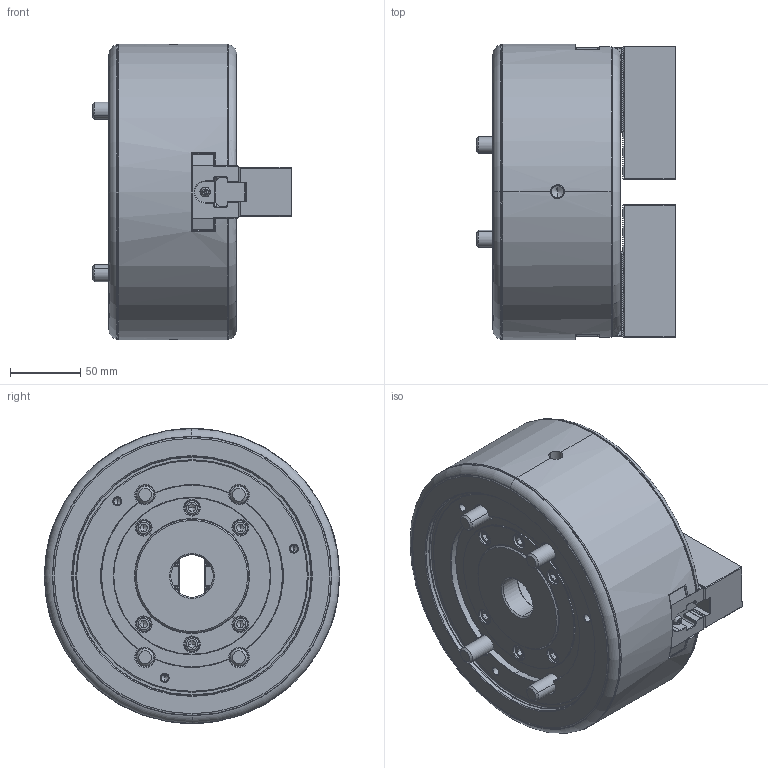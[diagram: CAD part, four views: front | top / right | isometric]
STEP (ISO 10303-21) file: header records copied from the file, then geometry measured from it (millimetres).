
FILE_DESCRIPTION (( 'STEP AP203' ), '1' );
FILE_NAME ('DEV-BRT08-HOC.STEP', '2024-03-07T09:52:45', ( '' ), ( '' ), 'SwSTEP 2.0', 'SolidWorks 2022', '' );
FILE_SCHEMA (( 'CONFIG_CONTROL_DESIGN' ));
Length unit declared in the file: millimetre
Products named in the file (9): BRT08-Nishi20 Tナット-Puls_61P417260-1 B-208 Tﾅｯﾄ-ﾃﾞﾌｫﾙﾄ; BRT08-61P314548-5 ソフトジョー_BBT208-ﾃﾞﾌｫﾙﾄ; DEV-BRT08-HOC; Bアナツキ M12×90; Bアナツキボタン M5×10_デフォルト; Part1^DEV-BRT08-クミタテ(量産)★; BRT08-Nishi20 ドローナット_ﾃﾞﾌｫﾙﾄ-Design; Bアナツキ M12×30; 61P804199-0(BBT208) カバー_BBT208-ﾃﾞﾌｫﾙﾄ
Assembly tree (19 placements, depth 2):
  DEV-BRT08-HOC
    BRT08-Nishi20 ドローナット_ﾃﾞﾌｫﾙﾄ-Design
    BRT08-61P314548-5 ソフトジョー_BBT208-ﾃﾞﾌｫﾙﾄ  x2
    BRT08-Nishi20 Tナット-Puls_61P417260-1 B-208 Tﾅｯﾄ-ﾃﾞﾌｫﾙﾄ  x2
    61P804199-0(BBT208) カバー_BBT208-ﾃﾞﾌｫﾙﾄ
    Bアナツキ M12×30  x4
    Bアナツキボタン M5×10_デフォルト  x4
    Bアナツキ M12×90  x4
    Part1^DEV-BRT08-クミタテ(量産)★
Bounding box: 142.2 x 210 x 210 mm (x, y, z)
Volume: 2920037.3 mm3; surface area: 314060.9 mm2
Topology: 19 solids, 23 shells, 3005 faces, 8220 edges, 5333 vertices
Faces by surface type: plane 2066, cylinder 402, cone 300, bspline 126, torus 103, sphere 8
Entity records: 80017 total; most frequent: CARTESIAN_POINT 20030, ORIENTED_EDGE 12770, DIRECTION 11348, EDGE_CURVE 6385, LINE 4692, VECTOR 4692, VERTEX_POINT 4174, AXIS2_PLACEMENT_3D 3328
